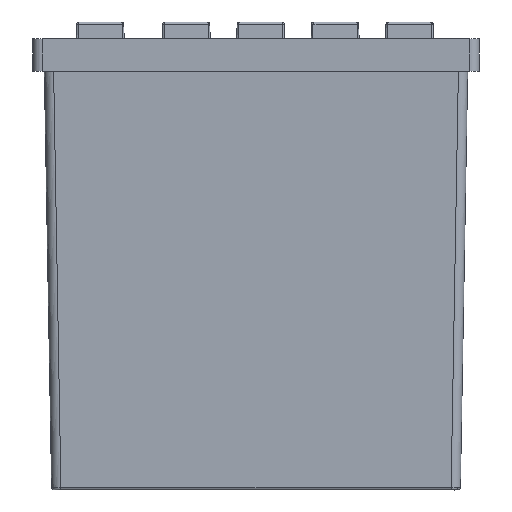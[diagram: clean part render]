
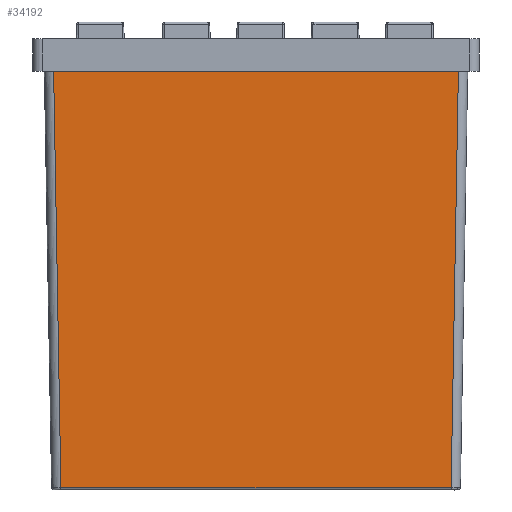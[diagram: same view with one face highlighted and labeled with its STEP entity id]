
A CAD part, front view. The second image highlights one B-rep face of the part: STEP entity #34192.
In plain terms, the highlighted planar face has unit normal (0, -1, -0.018) as drawn and (0.017, -1, 0) by its records, which use the part's own axes.
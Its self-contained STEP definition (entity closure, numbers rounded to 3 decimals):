
#894 = CARTESIAN_POINT ( 'NONE',  ( 90., 1.571, 91. ) ) ;
#3260 = LINE ( 'NONE', #6234, #26462 ) ;
#3545 = EDGE_CURVE ( 'NONE', #34838, #7110, #3260, .T. ) ;
#5177 = DIRECTION ( 'NONE',  ( 1., 0.017, 0.017 ) ) ;
#6043 = DIRECTION ( 'NONE',  ( -1., -0.017, 0.017 ) ) ;
#6234 = CARTESIAN_POINT ( 'NONE',  ( -0.035, -0.001, 89.001 ) ) ;
#6308 = DIRECTION ( 'NONE',  ( 0., 0., 1. ) ) ;
#6488 = CARTESIAN_POINT ( 'NONE',  ( 89.509, 1.562, 91. ) ) ;
#7110 = VERTEX_POINT ( 'NONE', #15177 ) ;
#7747 = VECTOR ( 'NONE', #5177, 1000. ) ;
#8600 = EDGE_CURVE ( 'NONE', #7110, #32734, #32177, .T. ) ;
#11240 = EDGE_LOOP ( 'NONE', ( #12555, #25759, #21263, #24051 ) ) ;
#12359 = EDGE_CURVE ( 'NONE', #13542, #34838, #26135, .T. ) ;
#12555 = ORIENTED_EDGE ( 'NONE', *, *, #13861, .T. ) ;
#13479 = VECTOR ( 'NONE', #24197, 1000. ) ;
#13542 = VERTEX_POINT ( 'NONE', #21736 ) ;
#13861 = EDGE_CURVE ( 'NONE', #32734, #13542, #19284, .T. ) ;
#13955 = CARTESIAN_POINT ( 'NONE',  ( 89.509, 1.562, 87.438 ) ) ;
#15177 = CARTESIAN_POINT ( 'NONE',  ( 0., 0., 89. ) ) ;
#15774 = AXIS2_PLACEMENT_3D ( 'NONE', #894, #34786, #34409 ) ;
#17864 = CARTESIAN_POINT ( 'NONE',  ( 0., 0., 2. ) ) ;
#19284 = LINE ( 'NONE', #22050, #7747 ) ;
#20904 = CARTESIAN_POINT ( 'NONE',  ( 0., 0., 91. ) ) ;
#21263 = ORIENTED_EDGE ( 'NONE', *, *, #3545, .T. ) ;
#21736 = CARTESIAN_POINT ( 'NONE',  ( 89.509, 1.562, 3.562 ) ) ;
#22050 = CARTESIAN_POINT ( 'NONE',  ( 89.965, 1.57, 3.57 ) ) ;
#23305 = PLANE ( 'NONE',  #15774 ) ;
#24051 = ORIENTED_EDGE ( 'NONE', *, *, #8600, .T. ) ;
#24197 = DIRECTION ( 'NONE',  ( 0., 0., -1. ) ) ;
#25759 = ORIENTED_EDGE ( 'NONE', *, *, #12359, .T. ) ;
#26135 = LINE ( 'NONE', #6488, #36265 ) ;
#26462 = VECTOR ( 'NONE', #6043, 1000. ) ;
#29230 = FACE_OUTER_BOUND ( 'NONE', #11240, .T. ) ;
#32177 = LINE ( 'NONE', #20904, #13479 ) ;
#32734 = VERTEX_POINT ( 'NONE', #17864 ) ;
#34192 = ADVANCED_FACE ( 'NONE', ( #29230 ), #23305, .F. ) ;
#34409 = DIRECTION ( 'NONE',  ( -1., -0.017, 0. ) ) ;
#34786 = DIRECTION ( 'NONE',  ( -0.017, 1., 0. ) ) ;
#34838 = VERTEX_POINT ( 'NONE', #13955 ) ;
#36265 = VECTOR ( 'NONE', #6308, 1000. ) ;
